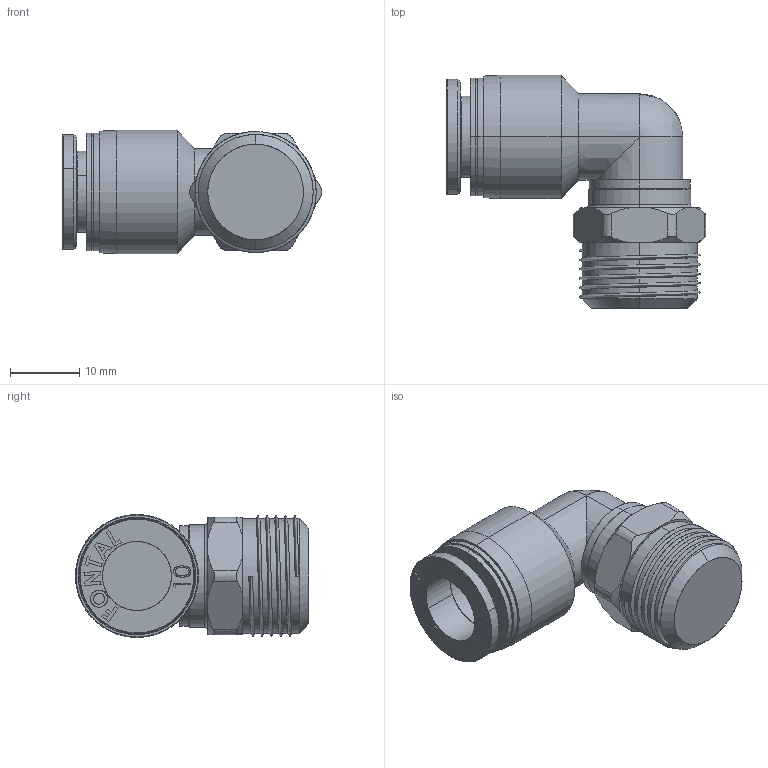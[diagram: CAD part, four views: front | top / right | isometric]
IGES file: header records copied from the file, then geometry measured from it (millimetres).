
Start section: SolidWorks IGES file using analytic representation for surfaces
Global section: file name: D:\Custom\3D繪製\ADDITIONAL\FPL\FPL10-03.IGS,1; native system: 5HSolidWorks 2014; preprocessor: SolidWorks 2014; author: Chieh_Lu; date: 160115.050245; units: millimetre
Bounding box: 37.59 x 33.8 x 17.85 mm (x, y, z)
Surface area: 4772.9 mm2 (no closed solid volume)
Topology: 0 solids, 0 shells, 177 faces, 2278 edges, 2277 vertices
Faces by surface type: bspline 111, revolution 66
